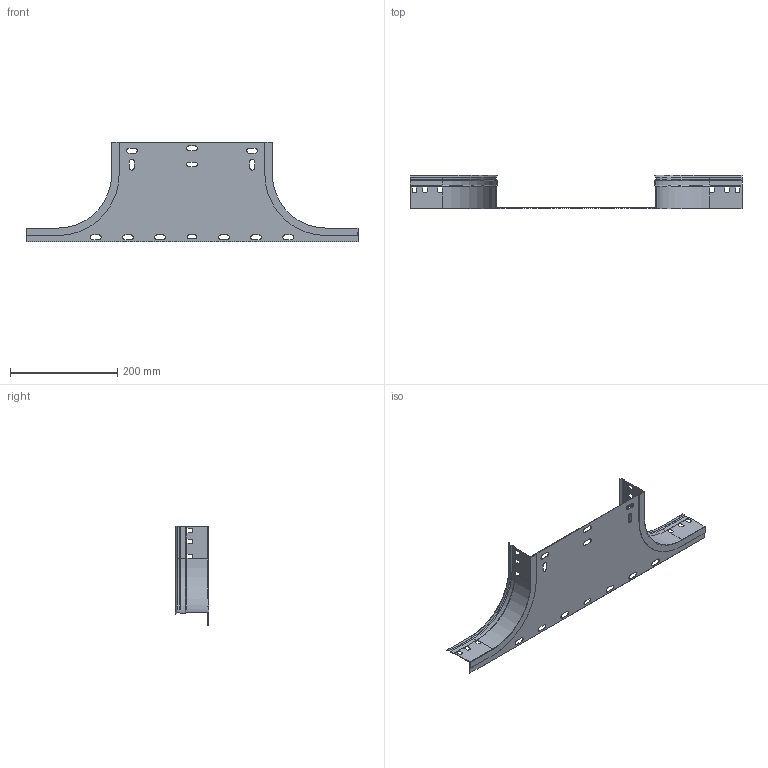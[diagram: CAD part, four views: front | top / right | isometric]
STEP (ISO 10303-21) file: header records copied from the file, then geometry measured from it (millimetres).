
FILE_DESCRIPTION (( 'STEP AP203' ), '1' );
FILE_NAME ('ERE_AS 300x60.step', '2023-07-27T18:50:08', ( '' ), ( '' ), 'SwSTEP 2.0', 'SolidWorks 2022', '' );
FILE_SCHEMA (( 'CONFIG_CONTROL_DESIGN' ));
Length unit declared in the file: millimetre
Products named in the file (3): ERE_AS 300x60; ERE_LATERAL AS_60; ERE_BASE AS_300
Assembly tree (3 placements, depth 2):
  ERE_AS 300x60
    ERE_BASE AS_300
    ERE_LATERAL AS_60  x2
Bounding box: 620 x 62 x 185.5 mm (x, y, z)
Volume: 94805.9 mm3; surface area: 219419.2 mm2
Topology: 3 solids, 3 shells, 218 faces, 624 edges, 388 vertices
Faces by surface type: plane 136, cylinder 68, cone 14
Entity records: 5023 total; most frequent: CARTESIAN_POINT 826, ORIENTED_EDGE 816, DIRECTION 814, EDGE_CURVE 408, VECTOR 290, LINE 290, AXIS2_PLACEMENT_3D 262, VERTEX_POINT 258
